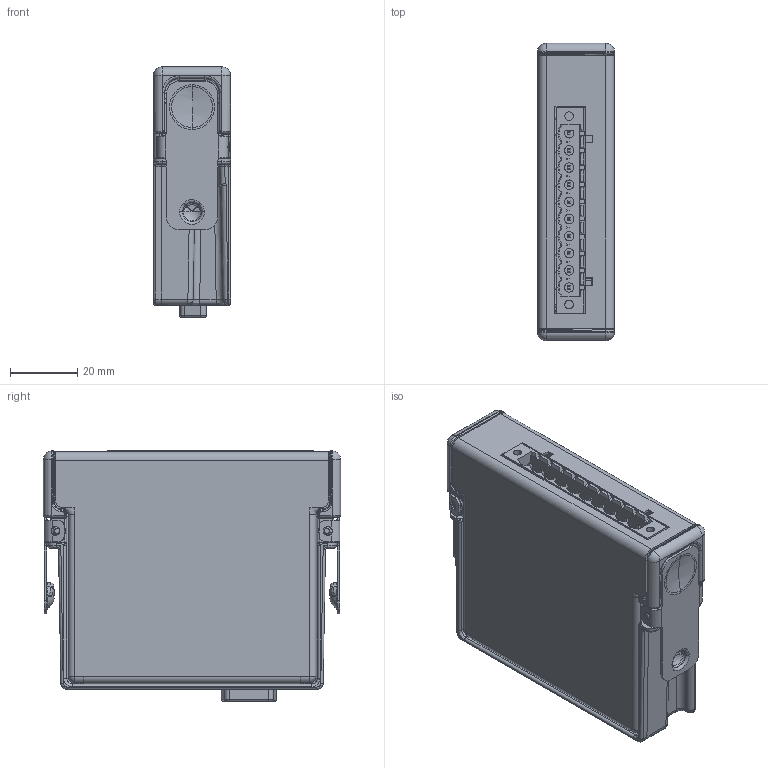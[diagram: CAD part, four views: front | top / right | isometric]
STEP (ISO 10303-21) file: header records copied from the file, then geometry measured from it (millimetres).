
FILE_DESCRIPTION((''),'2;1');
FILE_NAME('CART_CRIO_10_POS_CMBCN_LVL6','2007-01-24T',('chrisj'),(''),'PRO/ENGINEER BY PARAMETRIC TECHNOLOGY CORPORATION, 2006080','PRO/ENGINEER BY PARAMETRIC TECHNOLOGY CORPORATION, 2006080','');
FILE_SCHEMA(('AUTOMOTIVE_DESIGN_CC2 { 1 2 10303 214 -1 1 5 2 }'));
Products named in the file (1): CART_CRIO_10_POS_CMBCN_LVL6
Bounding box: 22.86 x 88.11 x 74.32 mm (x, y, z)
Volume: 41267.5 mm3; surface area: 48319.3 mm2
Topology: 14 solids, 14 shells, 2286 faces, 5300 edges, 3096 vertices
Faces by surface type: plane 1169, cylinder 535, bspline 365, sphere 79, cone 72, torus 60, extrusion 6
Entity records: 103626 total; most frequent: CARTESIAN_POINT 35923, ORIENTED_EDGE 10456, DIRECTION 9300, EDGE_CURVE 5228, AXIS2_PLACEMENT_3D 3173, VERTEX_POINT 3134, FILL_AREA_STYLE_COLOUR 2966, FILL_AREA_STYLE 2966
